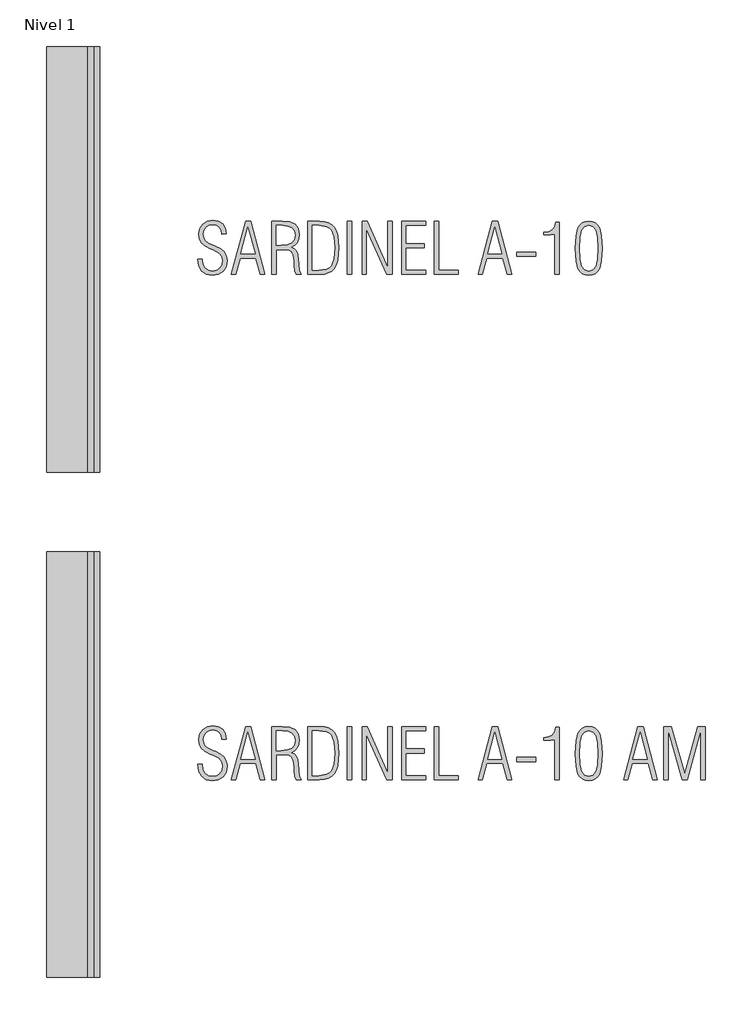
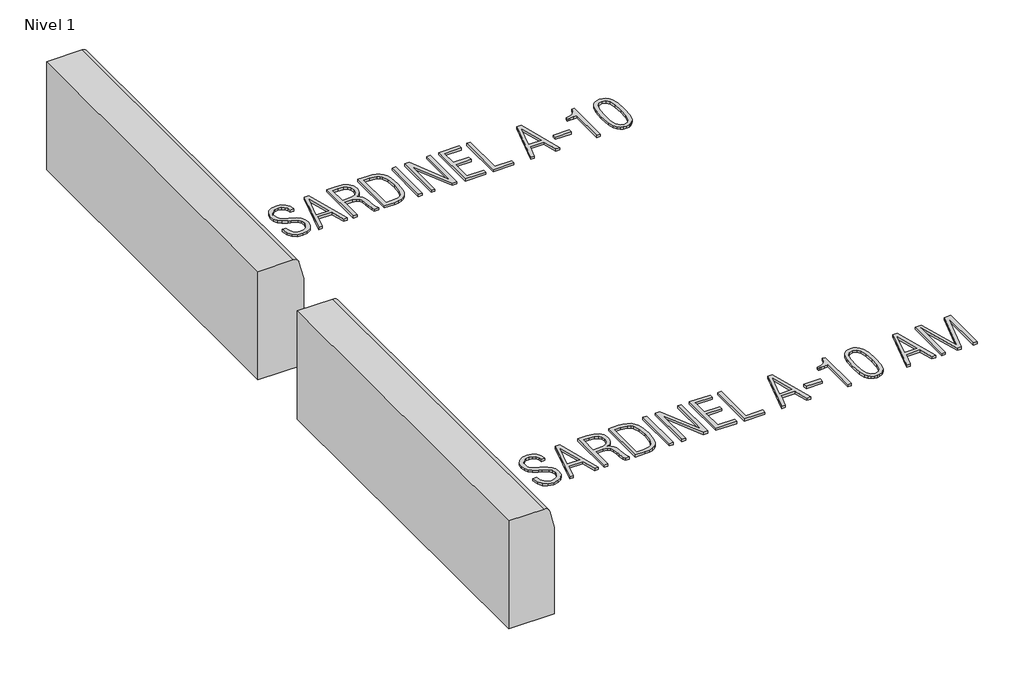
# One storey: 2 proxies, 2 railings.
"""IFC4 building model written with IfcOpenShell, lengths in millimetres."""

from ifc_helpers import new_model, si_unit, origin, origin_with_axes, place, context, project, spatial, polyline, outline, extrude, transform, mapped, element, save
from components import sardinel_a10_am_titan_80x50x20_00f8a182, sardinel_a10_titan_80x50x20_a0165ff1

model = new_model("IFC4")

# Units and contexts
model_context = context("Model", 3, world=origin())
ifc_project = project(units=[si_unit("LENGTHUNIT", "METRE", prefix="MILLI")], contexts=[model_context])

# Site, building, storey
site = spatial("IfcSite", under=ifc_project)
building = spatial("IfcBuilding", under=site)
storey = spatial("IfcBuildingStorey", under=building, Name="Nivel 1", Elevation=0.0)

# Proxies
placement = place(None, origin())
element("IfcBuildingElementProxy", 1, Name="200mm", ObjectType="200mm", at=placement, inside=storey, context=model_context, shape_type="SweptSolid", body=[
    extrude(outline(polyline([(-2275.002502, 4339.8125942), (-2258.8337421, 4339.8125942), (-2255.8147315, 4320.7321944), (-2248.2735208, 4306.4392633), (-2236.702752, 4297.5148657), (-2221.595067, 4294.5400666), (-2204.7694513, 4297.2117015), (-2191.9860255, 4305.2266063), (-2183.9142774, 4317.8900296), (-2181.2236947, 4334.5072199), (-2184.1542824, 4350.2212334), (-2193.7544836, 4362.2467485), (-2217.3507676, 4373.9185721), (-2228.9720637, 4378.4660358), (-2248.8482697, 4388.8809909), (-2261.991703, 4400.9254538), (-2269.3244883, 4415.6352358), (-2271.76875, 4434.0461479), (-2268.054988, 4454.4149958), (-2256.9137019, 4470.8553403), (-2239.9996632, 4481.7124099), (-2218.9676436, 4485.3314331), (-2197.9166761, 4481.9713627), (-2181.8552869, 4471.8911515), (-2171.6803368, 4455.9118692), (-2168.2886868, 4434.8545859), (-2184.4574467, 4433.5914015), (-2187.4575096, 4448.7117184), (-2194.3355484, 4459.9161637), (-2204.7505035, 4466.8510459), (-2218.3613151, 4469.1626732), (-2233.1216244, 4466.5920931), (-2245.0650325, 4458.8803525), (-2252.9662508, 4447.2148449), (-2255.5999902, 4432.7829635), (-2253.427313, 4419.4437366), (-2247.0103365, 4408.3277142), (-2235.8311548, 4399.9906974), (-2216.1381106, 4391.1484068), (-2209.6200792, 4388.5209833), (-2188.8912238, 4378.2702422), (-2175.2109371, 4366.5163117), (-2167.5939354, 4352.1602214), (-2165.0549348, 4334.1030009), (-2168.7497491, 4310.9361996), (-2179.8341919, 4293.2768822), (-2197.3356113, 4282.0977006), (-2220.2813553, 4278.3713067), (-2243.0692012, 4282.3503374), (-2260.0969265, 4294.2874297), (-2270.8971528, 4313.6267823), (-2275.002502, 4339.8125942)])), origin_with_axes(), (0.0, 0.0, 1.0), 10.0),
    extrude(outline(polyline([(-2148.886175, 4281.6050587), (-2095.3271579, 4482.0976811), (-2075.7730639, 4482.0976811), (-2022.7698479, 4281.6050587), (-2039.5954637, 4281.6050587), (-2056.370552, 4343.0463462), (-2116.2960183, 4343.0463462), (-2133.3742709, 4281.6050587), (-2148.886175, 4281.6050587)]), holes=[polyline([(-2113.4664853, 4359.2151061), (-2059.7558861, 4359.2151061), (-2086.4848673, 4459.9161637), (-2113.4664853, 4359.2151061)])]), origin_with_axes(), (0.0, 0.0, 1.0), 10.0),
    extrude(outline(polyline([(-1996.8998321, 4281.6050587), (-1996.8998321, 4482.0976811), (-1957.8421715, 4482.0976811), (-1928.9784088, 4479.0913024), (-1908.9822003, 4470.072166), (-1897.3103767, 4454.6992123), (-1893.4197689, 4432.6313814), (-1895.2892817, 4415.4141785), (-1900.8978203, 4401.7591555), (-1910.3843349, 4391.4263074), (-1923.8877758, 4384.1756291), (-1912.0959497, 4378.7881478), (-1904.1063086, 4370.609029), (-1899.1988373, 4358.0466605), (-1896.6535209, 4339.50943), (-1895.8956102, 4321.7237941), (-1893.1039728, 4295.7527235), (-1886.9522649, 4281.6050587), (-1905.5463388, 4281.6050587), (-1909.8159019, 4293.7442604), (-1912.1148975, 4318.5405695), (-1912.8222807, 4331.8797964), (-1915.6960252, 4354.212896), (-1921.5887802, 4367.1479039), (-1931.9911035, 4373.3248754), (-1948.3935525, 4375.3838659), (-1980.7310722, 4375.3838659), (-1980.7310722, 4281.6050587), (-1996.8998321, 4281.6050587)]), holes=[polyline([(-1980.7310722, 4391.5526258), (-1963.0970185, 4391.5526258), (-1938.250182, 4393.8074099), (-1921.8161534, 4400.5717622), (-1912.6454349, 4412.5025385), (-1909.5885288, 4430.2565948), (-1912.4938528, 4446.3685114), (-1921.2098249, 4457.4150586), (-1936.3048781, 4463.8004556), (-1958.3474453, 4465.9289213), (-1980.7310722, 4465.9289213), (-1980.7310722, 4391.5526258)])]), origin_with_axes(), (0.0, 0.0, 1.0), 10.0),
    extrude(outline(polyline([(-1861.0822491, 4281.6050587), (-1861.0822491, 4482.0976811), (-1819.2961103, 4482.0976811), (-1800.255185, 4480.7018624), (-1784.2616919, 4476.5144063), (-1771.3156312, 4469.5353126), (-1761.4170027, 4459.7645816), (-1754.0889544, 4446.5295674), (-1748.8546342, 4429.1576244), (-1744.667178, 4382.002952), (-1748.8735819, 4334.8735433), (-1754.1315869, 4317.4573889), (-1761.4927937, 4304.1402677), (-1771.4151069, 4294.2811138), (-1784.3564308, 4287.2388609), (-1800.3167652, 4283.0135092), (-1819.2961103, 4281.6050587), (-1861.0822491, 4281.6050587)]), holes=[polyline([(-1844.9134892, 4297.7738185), (-1820.4077125, 4297.7738185), (-1791.5818453, 4302.100225), (-1781.2047858, 4307.508233), (-1773.5183089, 4315.0794443), (-1764.0065306, 4340.3620794), (-1760.8359379, 4381.598733), (-1764.0065306, 4423.1511827), (-1773.5183089, 4448.5727681), (-1781.2047858, 4456.1660851), (-1791.5818453, 4461.589883), (-1820.4077125, 4465.9289213), (-1844.9134892, 4465.9289213), (-1844.9134892, 4297.7738185)])]), origin_with_axes(), (0.0, 0.0, 1.0), 10.0),
    extrude(outline(polyline([(-1712.3296582, 4281.6050587), (-1712.3296582, 4482.0976811), (-1696.1608984, 4482.0976811), (-1696.1608984, 4281.6050587), (-1712.3296582, 4281.6050587)])), origin_with_axes(), (0.0, 0.0, 1.0), 10.0),
    extrude(outline(polyline([(-1657.3558747, 4281.6050587), (-1657.3558747, 4482.0976811), (-1637.852308, 4482.0976811), (-1560.3433154, 4307.2224376), (-1560.3433154, 4482.0976811), (-1544.1745555, 4482.0976811), (-1544.1745555, 4281.6050587), (-1564.0823411, 4281.6050587), (-1641.1871148, 4453.0444407), (-1641.1871148, 4281.6050587), (-1657.3558747, 4281.6050587)])), origin_with_axes(), (0.0, 0.0, 1.0), 10.0),
    extrude(outline(polyline([(-1508.6032838, 4281.6050587), (-1508.6032838, 4482.0976811), (-1418.0582284, 4482.0976811), (-1418.0582284, 4465.9289213), (-1492.4345239, 4465.9289213), (-1492.4345239, 4398.0201298), (-1424.5257324, 4398.0201298), (-1424.5257324, 4381.8513699), (-1492.4345239, 4381.8513699), (-1492.4345239, 4297.7738185), (-1418.0582284, 4297.7738185), (-1418.0582284, 4281.6050587), (-1508.6032838, 4281.6050587)])), origin_with_axes(), (0.0, 0.0, 1.0), 10.0),
    extrude(outline(polyline([(-1385.7207087, 4281.6050587), (-1385.7207087, 4482.0976811), (-1369.5519488, 4482.0976811), (-1369.5519488, 4297.7738185), (-1295.1756534, 4297.7738185), (-1295.1756534, 4281.6050587), (-1385.7207087, 4281.6050587)])), origin_with_axes(), (0.0, 0.0, 1.0), 10.0),
    extrude(outline(polyline([(-1220.7993579, 4281.6050587), (-1167.2403408, 4482.0976811), (-1147.6862469, 4482.0976811), (-1094.6830309, 4281.6050587), (-1111.5086466, 4281.6050587), (-1128.283735, 4343.0463462), (-1188.2092013, 4343.0463462), (-1205.2874539, 4281.6050587), (-1220.7993579, 4281.6050587)]), holes=[polyline([(-1185.3796683, 4359.2151061), (-1131.6690691, 4359.2151061), (-1158.3980503, 4459.9161637), (-1185.3796683, 4359.2151061)])]), origin_with_axes(), (0.0, 0.0, 1.0), 10.0),
    extrude(outline(polyline([(-1075.280519, 4349.5138501), (-1075.280519, 4365.68261), (-1004.1379756, 4365.68261), (-1004.1379756, 4349.5138501), (-1075.280519, 4349.5138501)])), origin_with_axes(), (0.0, 0.0, 1.0), 10.0),
    extrude(outline(polyline([(-932.9954321, 4281.6050587), (-932.9954321, 4432.6819088), (-948.431545, 4431.0145054), (-964.271877, 4430.3576495), (-970.7646446, 4430.4081769), (-975.0342078, 4430.7113412), (-975.0342078, 4440.0589055), (-955.4106387, 4442.9452817), (-941.9135137, 4449.7854251), (-933.5575491, 4461.4635645), (-929.3574611, 4478.8639292), (-916.8266722, 4478.8639292), (-916.8266722, 4281.6050587), (-932.9954321, 4281.6050587)])), origin_with_axes(), (0.0, 0.0, 1.0), 10.0),
    extrude(outline(polyline([(-855.3853847, 4380.4366034), (-853.1369165, 4428.2102361), (-846.1388751, 4455.3687), (-838.5029256, 4467.0152598), (-829.1364136, 4475.3775403), (-818.0519708, 4480.4176459), (-805.2622291, 4482.0976811), (-792.4724874, 4480.4050141), (-781.3880445, 4475.3270129), (-772.0846917, 4466.9521006), (-764.6382199, 4455.3687), (-757.4633327, 4427.2249523), (-755.1390734, 4380.4366034), (-757.3875416, 4332.7892891), (-764.6382199, 4305.1002879), (-772.0846917, 4293.5168872), (-781.3880445, 4285.1419749), (-792.4724874, 4280.0639737), (-805.2622291, 4278.3713067), (-818.0519708, 4280.0639737), (-829.1364136, 4285.1419749), (-838.5029256, 4293.5168872), (-846.1388751, 4305.1002879), (-853.1369165, 4332.3345428), (-855.3853847, 4380.4366034)]), holes=[polyline([(-839.2166248, 4380.2850213), (-837.2776368, 4339.4083752), (-831.4606728, 4313.2857225), (-820.9951903, 4299.2264806), (-805.1106469, 4294.5400666), (-789.3903175, 4299.1949009), (-779.0132579, 4313.1594041), (-773.2341895, 4339.2504772), (-771.3078333, 4380.2850213), (-773.2341895, 4421.2437743), (-779.0132579, 4447.3095837), (-789.3903175, 4461.2740869), (-805.1106469, 4465.9289213), (-820.9951903, 4461.2425073), (-831.4606728, 4447.1832653), (-837.2776368, 4421.0858763), (-839.2166248, 4380.2850213)])]), origin_with_axes(), (0.0, 0.0, 1.0), 10.0),
])
element("IfcBuildingElementProxy", 2, Name="200mm", ObjectType="200mm", at=placement, inside=storey, context=model_context, shape_type="SweptSolid", body=[
    extrude(outline(polyline([(-2275.002502, 2439.8125942), (-2258.8337421, 2439.8125942), (-2255.8147315, 2420.7321944), (-2248.2735208, 2406.4392633), (-2236.702752, 2397.5148657), (-2221.595067, 2394.5400666), (-2204.7694513, 2397.2117015), (-2191.9860255, 2405.2266063), (-2183.9142774, 2417.8900296), (-2181.2236947, 2434.5072199), (-2184.1542824, 2450.2212334), (-2193.7544836, 2462.2467485), (-2217.3507676, 2473.9185721), (-2228.9720637, 2478.4660358), (-2248.8482697, 2488.8809909), (-2261.991703, 2500.9254538), (-2269.3244883, 2515.6352358), (-2271.76875, 2534.0461479), (-2268.054988, 2554.4149958), (-2256.9137019, 2570.8553403), (-2239.9996632, 2581.7124099), (-2218.9676436, 2585.3314331), (-2197.9166761, 2581.9713627), (-2181.8552869, 2571.8911515), (-2171.6803368, 2555.9118692), (-2168.2886868, 2534.8545859), (-2184.4574467, 2533.5914015), (-2187.4575096, 2548.7117184), (-2194.3355484, 2559.9161637), (-2204.7505035, 2566.8510459), (-2218.3613151, 2569.1626732), (-2233.1216244, 2566.5920931), (-2245.0650325, 2558.8803525), (-2252.9662508, 2547.2148449), (-2255.5999902, 2532.7829635), (-2253.427313, 2519.4437366), (-2247.0103365, 2508.3277142), (-2235.8311548, 2499.9906974), (-2216.1381106, 2491.1484068), (-2209.6200792, 2488.5209833), (-2188.8912238, 2478.2702422), (-2175.2109371, 2466.5163117), (-2167.5939354, 2452.1602214), (-2165.0549348, 2434.1030009), (-2168.7497491, 2410.9361996), (-2179.8341919, 2393.2768822), (-2197.3356113, 2382.0977006), (-2220.2813553, 2378.3713067), (-2243.0692012, 2382.3503374), (-2260.0969265, 2394.2874297), (-2270.8971528, 2413.6267823), (-2275.002502, 2439.8125942)])), origin_with_axes(), (0.0, 0.0, 1.0), 10.0),
    extrude(outline(polyline([(-2148.886175, 2381.6050587), (-2095.3271579, 2582.0976811), (-2075.7730639, 2582.0976811), (-2022.7698479, 2381.6050587), (-2039.5954637, 2381.6050587), (-2056.370552, 2443.0463462), (-2116.2960183, 2443.0463462), (-2133.3742709, 2381.6050587), (-2148.886175, 2381.6050587)]), holes=[polyline([(-2113.4664853, 2459.2151061), (-2059.7558861, 2459.2151061), (-2086.4848673, 2559.9161637), (-2113.4664853, 2459.2151061)])]), origin_with_axes(), (0.0, 0.0, 1.0), 10.0),
    extrude(outline(polyline([(-1996.8998321, 2381.6050587), (-1996.8998321, 2582.0976811), (-1957.8421715, 2582.0976811), (-1928.9784088, 2579.0913024), (-1908.9822003, 2570.072166), (-1897.3103767, 2554.6992123), (-1893.4197689, 2532.6313814), (-1895.2892817, 2515.4141785), (-1900.8978203, 2501.7591555), (-1910.3843349, 2491.4263074), (-1923.8877758, 2484.1756291), (-1912.0959497, 2478.7881478), (-1904.1063086, 2470.609029), (-1899.1988373, 2458.0466605), (-1896.6535209, 2439.50943), (-1895.8956102, 2421.7237941), (-1893.1039728, 2395.7527235), (-1886.9522649, 2381.6050587), (-1905.5463388, 2381.6050587), (-1909.8159019, 2393.7442604), (-1912.1148975, 2418.5405695), (-1912.8222807, 2431.8797964), (-1915.6960252, 2454.212896), (-1921.5887802, 2467.1479039), (-1931.9911035, 2473.3248754), (-1948.3935525, 2475.3838659), (-1980.7310722, 2475.3838659), (-1980.7310722, 2381.6050587), (-1996.8998321, 2381.6050587)]), holes=[polyline([(-1980.7310722, 2491.5526258), (-1963.0970185, 2491.5526258), (-1938.250182, 2493.8074099), (-1921.8161534, 2500.5717622), (-1912.6454349, 2512.5025385), (-1909.5885288, 2530.2565948), (-1912.4938528, 2546.3685114), (-1921.2098249, 2557.4150586), (-1936.3048781, 2563.8004556), (-1958.3474453, 2565.9289213), (-1980.7310722, 2565.9289213), (-1980.7310722, 2491.5526258)])]), origin_with_axes(), (0.0, 0.0, 1.0), 10.0),
    extrude(outline(polyline([(-1861.0822491, 2381.6050587), (-1861.0822491, 2582.0976811), (-1819.2961103, 2582.0976811), (-1800.255185, 2580.7018624), (-1784.2616919, 2576.5144063), (-1771.3156312, 2569.5353126), (-1761.4170027, 2559.7645816), (-1754.0889544, 2546.5295674), (-1748.8546342, 2529.1576244), (-1744.667178, 2482.002952), (-1748.8735819, 2434.8735433), (-1754.1315869, 2417.4573889), (-1761.4927937, 2404.1402677), (-1771.4151069, 2394.2811138), (-1784.3564308, 2387.2388609), (-1800.3167652, 2383.0135092), (-1819.2961103, 2381.6050587), (-1861.0822491, 2381.6050587)]), holes=[polyline([(-1844.9134892, 2397.7738185), (-1820.4077125, 2397.7738185), (-1791.5818453, 2402.100225), (-1781.2047858, 2407.508233), (-1773.5183089, 2415.0794443), (-1764.0065306, 2440.3620794), (-1760.8359379, 2481.598733), (-1764.0065306, 2523.1511827), (-1773.5183089, 2548.5727681), (-1781.2047858, 2556.1660851), (-1791.5818453, 2561.589883), (-1820.4077125, 2565.9289213), (-1844.9134892, 2565.9289213), (-1844.9134892, 2397.7738185)])]), origin_with_axes(), (0.0, 0.0, 1.0), 10.0),
    extrude(outline(polyline([(-1712.3296582, 2381.6050587), (-1712.3296582, 2582.0976811), (-1696.1608984, 2582.0976811), (-1696.1608984, 2381.6050587), (-1712.3296582, 2381.6050587)])), origin_with_axes(), (0.0, 0.0, 1.0), 10.0),
    extrude(outline(polyline([(-1657.3558747, 2381.6050587), (-1657.3558747, 2582.0976811), (-1637.852308, 2582.0976811), (-1560.3433154, 2407.2224376), (-1560.3433154, 2582.0976811), (-1544.1745555, 2582.0976811), (-1544.1745555, 2381.6050587), (-1564.0823411, 2381.6050587), (-1641.1871148, 2553.0444407), (-1641.1871148, 2381.6050587), (-1657.3558747, 2381.6050587)])), origin_with_axes(), (0.0, 0.0, 1.0), 10.0),
    extrude(outline(polyline([(-1508.6032838, 2381.6050587), (-1508.6032838, 2582.0976811), (-1418.0582284, 2582.0976811), (-1418.0582284, 2565.9289213), (-1492.4345239, 2565.9289213), (-1492.4345239, 2498.0201298), (-1424.5257324, 2498.0201298), (-1424.5257324, 2481.8513699), (-1492.4345239, 2481.8513699), (-1492.4345239, 2397.7738185), (-1418.0582284, 2397.7738185), (-1418.0582284, 2381.6050587), (-1508.6032838, 2381.6050587)])), origin_with_axes(), (0.0, 0.0, 1.0), 10.0),
    extrude(outline(polyline([(-1385.7207087, 2381.6050587), (-1385.7207087, 2582.0976811), (-1369.5519488, 2582.0976811), (-1369.5519488, 2397.7738185), (-1295.1756534, 2397.7738185), (-1295.1756534, 2381.6050587), (-1385.7207087, 2381.6050587)])), origin_with_axes(), (0.0, 0.0, 1.0), 10.0),
    extrude(outline(polyline([(-1220.7993579, 2381.6050587), (-1167.2403408, 2582.0976811), (-1147.6862469, 2582.0976811), (-1094.6830309, 2381.6050587), (-1111.5086466, 2381.6050587), (-1128.283735, 2443.0463462), (-1188.2092013, 2443.0463462), (-1205.2874539, 2381.6050587), (-1220.7993579, 2381.6050587)]), holes=[polyline([(-1185.3796683, 2459.2151061), (-1131.6690691, 2459.2151061), (-1158.3980503, 2559.9161637), (-1185.3796683, 2459.2151061)])]), origin_with_axes(), (0.0, 0.0, 1.0), 10.0),
    extrude(outline(polyline([(-1075.280519, 2449.5138501), (-1075.280519, 2465.68261), (-1004.1379756, 2465.68261), (-1004.1379756, 2449.5138501), (-1075.280519, 2449.5138501)])), origin_with_axes(), (0.0, 0.0, 1.0), 10.0),
    extrude(outline(polyline([(-932.9954321, 2381.6050587), (-932.9954321, 2532.6819088), (-948.431545, 2531.0145054), (-964.271877, 2530.3576495), (-970.7646446, 2530.4081769), (-975.0342078, 2530.7113412), (-975.0342078, 2540.0589055), (-955.4106387, 2542.9452817), (-941.9135137, 2549.7854251), (-933.5575491, 2561.4635645), (-929.3574611, 2578.8639292), (-916.8266722, 2578.8639292), (-916.8266722, 2381.6050587), (-932.9954321, 2381.6050587)])), origin_with_axes(), (0.0, 0.0, 1.0), 10.0),
    extrude(outline(polyline([(-855.3853847, 2480.4366034), (-853.1369165, 2528.2102361), (-846.1388751, 2555.3687), (-838.5029256, 2567.0152598), (-829.1364136, 2575.3775403), (-818.0519708, 2580.4176459), (-805.2622291, 2582.0976811), (-792.4724874, 2580.4050141), (-781.3880445, 2575.3270129), (-772.0846917, 2566.9521006), (-764.6382199, 2555.3687), (-757.4633327, 2527.2249523), (-755.1390734, 2480.4366034), (-757.3875416, 2432.7892891), (-764.6382199, 2405.1002879), (-772.0846917, 2393.5168872), (-781.3880445, 2385.1419749), (-792.4724874, 2380.0639737), (-805.2622291, 2378.3713067), (-818.0519708, 2380.0639737), (-829.1364136, 2385.1419749), (-838.5029256, 2393.5168872), (-846.1388751, 2405.1002879), (-853.1369165, 2432.3345428), (-855.3853847, 2480.4366034)]), holes=[polyline([(-839.2166248, 2480.2850213), (-837.2776368, 2439.4083752), (-831.4606728, 2413.2857225), (-820.9951903, 2399.2264806), (-805.1106469, 2394.5400666), (-789.3903175, 2399.1949009), (-779.0132579, 2413.1594041), (-773.2341895, 2439.2504772), (-771.3078333, 2480.2850213), (-773.2341895, 2521.2437743), (-779.0132579, 2547.3095837), (-789.3903175, 2561.2740869), (-805.1106469, 2565.9289213), (-820.9951903, 2561.2425073), (-831.4606728, 2547.1832653), (-837.2776368, 2521.0858763), (-839.2166248, 2480.2850213)])]), origin_with_axes(), (0.0, 0.0, 1.0), 10.0),
    extrude(outline(polyline([(-674.295274, 2381.6050587), (-620.7362569, 2582.0976811), (-601.182163, 2582.0976811), (-548.178947, 2381.6050587), (-565.0045627, 2381.6050587), (-581.7796511, 2443.0463462), (-641.7051174, 2443.0463462), (-658.78337, 2381.6050587), (-674.295274, 2381.6050587)]), holes=[polyline([(-638.8755844, 2459.2151061), (-585.1649852, 2459.2151061), (-611.8939664, 2559.9161637), (-638.8755844, 2459.2151061)])]), origin_with_axes(), (0.0, 0.0, 1.0), 10.0),
    extrude(outline(polyline([(-522.3089312, 2381.6050587), (-522.3089312, 2582.0976811), (-494.2662383, 2582.0976811), (-444.6988838, 2404.9992331), (-394.8788924, 2582.0976811), (-367.0888363, 2582.0976811), (-367.0888363, 2381.6050587), (-383.2575962, 2381.6050587), (-383.2575962, 2567.7984341), (-435.4523742, 2381.6050587), (-453.5411743, 2381.6050587), (-506.1401713, 2567.7984341), (-506.1401713, 2381.6050587), (-522.3089312, 2381.6050587)])), origin_with_axes(), (0.0, 0.0, 1.0), 10.0),
])

# Railings
sardinel_a10_am_titan_80x50x20_shape = sardinel_a10_am_titan_80x50x20_00f8a182(model_context)
element("IfcRailing", 3, ObjectType="SARDINEL_A10-AM_TITAN_80x50x20", at=placement, inside=storey, context=model_context, shape_type="MappedRepresentation", body=[
    mapped(sardinel_a10_am_titan_80x50x20_shape, transform((0.0, 0.0, 0.0), x_axis=(1.0, 0.0, 0.0), y_axis=(0.0, 1.0, 0.0), z_axis=(0.0, 0.0, 1.0))),
])
sardinel_a10_titan_80x50x20_shape = sardinel_a10_titan_80x50x20_a0165ff1(model_context)
element("IfcRailing", 4, ObjectType="SARDINEL_A10_TITAN_80x50x20", at=placement, inside=storey, context=model_context, shape_type="MappedRepresentation", body=[
    mapped(sardinel_a10_titan_80x50x20_shape, transform((0.0, 0.0, 0.0), x_axis=(1.0, 0.0, 0.0), y_axis=(0.0, 1.0, 0.0), z_axis=(0.0, 0.0, 1.0))),
])

save(model, "model.ifc")
